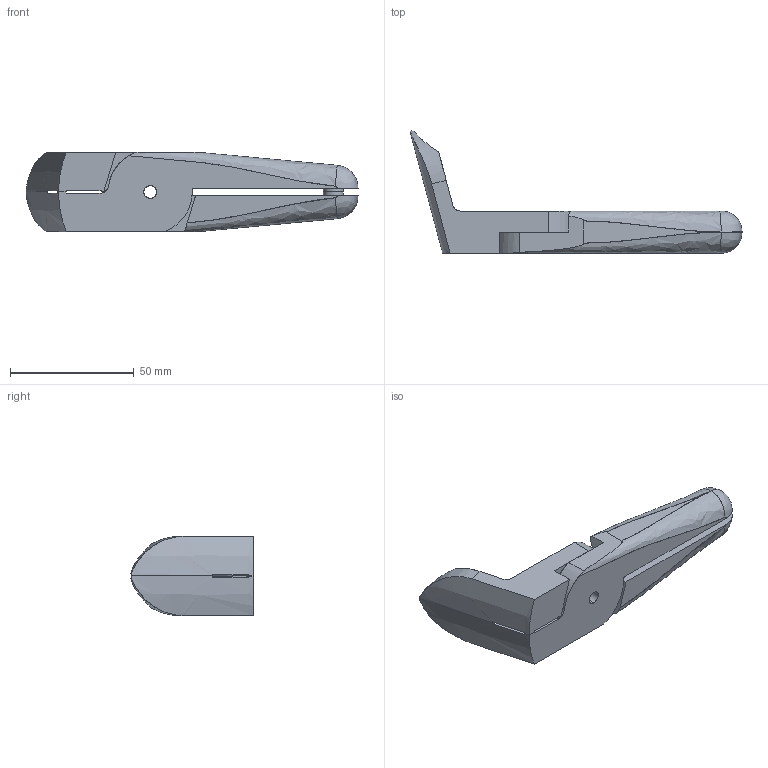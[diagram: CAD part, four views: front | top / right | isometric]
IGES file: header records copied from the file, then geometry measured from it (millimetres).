
Start section: SolidWorks IGES file using analytic representation for surfaces
Global section: file name: \\Server1\漂蔬皭}柺\CAD\BB(3D)\N30AA2272\N30AA2272.IGS; native system: SolidWorks 2010; preprocessor: SolidWorks 2010; author: NP3-10; date: 200812.070013; units: millimetre
Bounding box: 134.2 x 49.44 x 32 mm (x, y, z)
Surface area: 18771 mm2 (no closed solid volume)
Topology: 0 solids, 0 shells, 82 faces, 1160 edges, 1160 vertices
Faces by surface type: bspline 52, revolution 30
